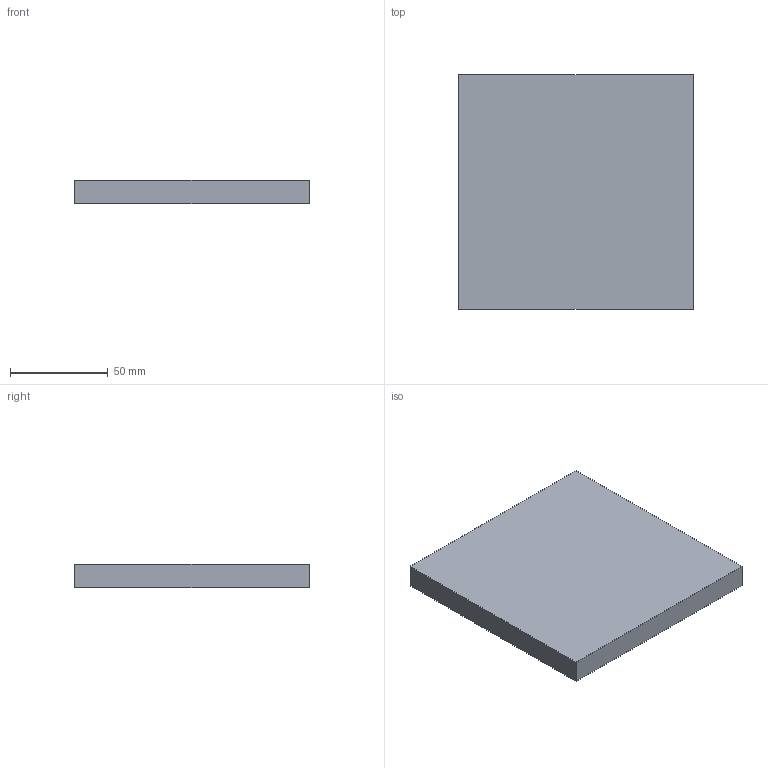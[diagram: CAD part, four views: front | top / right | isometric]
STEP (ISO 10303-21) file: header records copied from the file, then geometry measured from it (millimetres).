
FILE_DESCRIPTION(('Open CASCADE Model'),'2;1');
FILE_NAME('Open CASCADE Shape Model','2026-10-15T15:10:04',('Author'),( 'Open CASCADE'),'Open CASCADE STEP processor 8.0','Open CASCADE 8.0' ,'Unknown');
FILE_SCHEMA(('AUTOMOTIVE_DESIGN { 1 0 10303 214 1 1 1 1 }'));
Length unit declared in the file: millimetre
Products named in the file (1): P02_CAP_COLUMNA_120x120x12_P05 69
Bounding box: 120 x 120 x 12 mm (x, y, z)
Volume: 172800 mm3; surface area: 34560 mm2
Topology: 1 solids, 1 shells, 6 faces, 12 edges, 8 vertices
Faces by surface type: plane 6
Entity records: 322 total; most frequent: CARTESIAN_POINT 51, DIRECTION 50, LINE 36, VECTOR 36, ORIENTED_EDGE 24, PCURVE 24, DEFINITIONAL_REPRESENTATION 24, EDGE_CURVE 12
